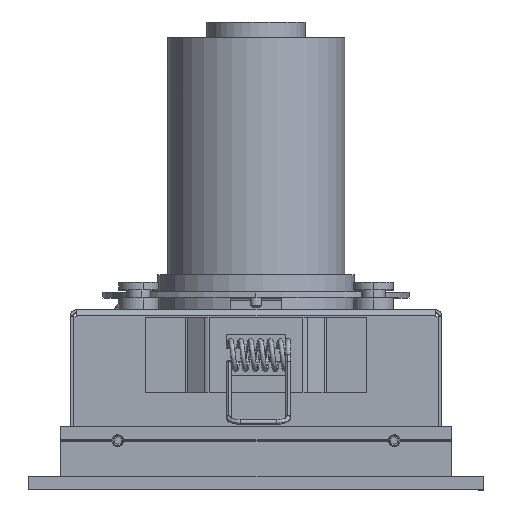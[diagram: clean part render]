
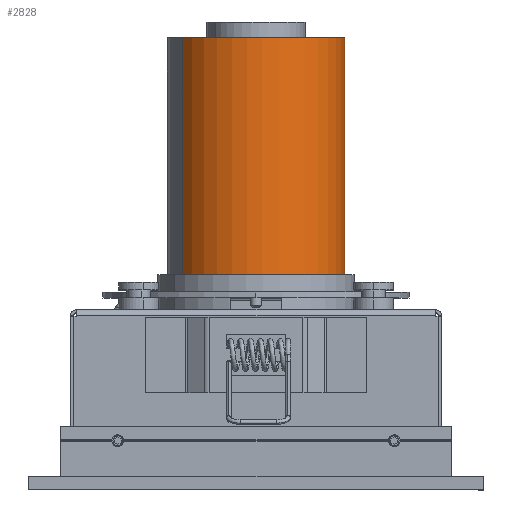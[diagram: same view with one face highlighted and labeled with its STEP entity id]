
A CAD part, top view. The second image highlights one B-rep face of the part: STEP entity #2828.
In plain terms, the highlighted cylindrical face has radius 22.5 mm (diameter 45 mm), a partial arc.
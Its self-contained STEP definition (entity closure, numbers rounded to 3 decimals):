
#775 = DIRECTION ( 'NONE',  ( 0., 0., 1. ) ) ;
#927 = VECTOR ( 'NONE', #8094, 1000. ) ;
#1324 = ORIENTED_EDGE ( 'NONE', *, *, #17460, .F. ) ;
#1952 = DIRECTION ( 'NONE',  ( 0., 1., 0. ) ) ;
#2362 = CARTESIAN_POINT ( 'NONE',  ( 0., 82.3, -22.5 ) ) ;
#2565 = DIRECTION ( 'NONE',  ( 0., -1., 0. ) ) ;
#2665 = AXIS2_PLACEMENT_3D ( 'NONE', #11423, #11595, #11135 ) ;
#2826 = AXIS2_PLACEMENT_3D ( 'NONE', #17944, #9455, #775 ) ;
#2828 = ADVANCED_FACE ( 'NONE', ( #9268 ), #7516, .T. ) ;
#3983 = CARTESIAN_POINT ( 'NONE',  ( 0., 82.3, 22.5 ) ) ;
#4903 = EDGE_LOOP ( 'NONE', ( #9454, #7484, #11143, #1324 ) ) ;
#6179 = VECTOR ( 'NONE', #2565, 1000. ) ;
#6202 = CIRCLE ( 'NONE', #2826, 22.5 ) ;
#6649 = CARTESIAN_POINT ( 'NONE',  ( 0., 82.3, -22.5 ) ) ;
#7484 = ORIENTED_EDGE ( 'NONE', *, *, #16892, .T. ) ;
#7511 = AXIS2_PLACEMENT_3D ( 'NONE', #10523, #1952, #11872 ) ;
#7516 = CYLINDRICAL_SURFACE ( 'NONE', #2665, 22.5 ) ;
#8094 = DIRECTION ( 'NONE',  ( 0., -1., 0. ) ) ;
#8147 = CARTESIAN_POINT ( 'NONE',  ( 0., 22.3, 22.5 ) ) ;
#8668 = LINE ( 'NONE', #2362, #927 ) ;
#9268 = FACE_OUTER_BOUND ( 'NONE', #4903, .T. ) ;
#9454 = ORIENTED_EDGE ( 'NONE', *, *, #15828, .F. ) ;
#9455 = DIRECTION ( 'NONE',  ( 0., 1., 0. ) ) ;
#9911 = VERTEX_POINT ( 'NONE', #15314 ) ;
#10523 = CARTESIAN_POINT ( 'NONE',  ( 0., 82.3, 0. ) ) ;
#11135 = DIRECTION ( 'NONE',  ( 0., 0., -1. ) ) ;
#11143 = ORIENTED_EDGE ( 'NONE', *, *, #17373, .T. ) ;
#11423 = CARTESIAN_POINT ( 'NONE',  ( 0., 82.3, 0. ) ) ;
#11595 = DIRECTION ( 'NONE',  ( 0., -1., 0. ) ) ;
#11872 = DIRECTION ( 'NONE',  ( 0., 0., 1. ) ) ;
#13551 = VERTEX_POINT ( 'NONE', #8147 ) ;
#15314 = CARTESIAN_POINT ( 'NONE',  ( 0., 22.3, -22.5 ) ) ;
#15828 = EDGE_CURVE ( 'NONE', #16792, #17443, #17970, .T. ) ;
#16632 = CARTESIAN_POINT ( 'NONE',  ( 0., 82.3, 22.5 ) ) ;
#16792 = VERTEX_POINT ( 'NONE', #16632 ) ;
#16892 = EDGE_CURVE ( 'NONE', #16792, #13551, #17054, .T. ) ;
#17054 = LINE ( 'NONE', #3983, #6179 ) ;
#17373 = EDGE_CURVE ( 'NONE', #13551, #9911, #6202, .T. ) ;
#17443 = VERTEX_POINT ( 'NONE', #6649 ) ;
#17460 = EDGE_CURVE ( 'NONE', #17443, #9911, #8668, .T. ) ;
#17944 = CARTESIAN_POINT ( 'NONE',  ( 0., 22.3, 0. ) ) ;
#17970 = CIRCLE ( 'NONE', #7511, 22.5 ) ;
